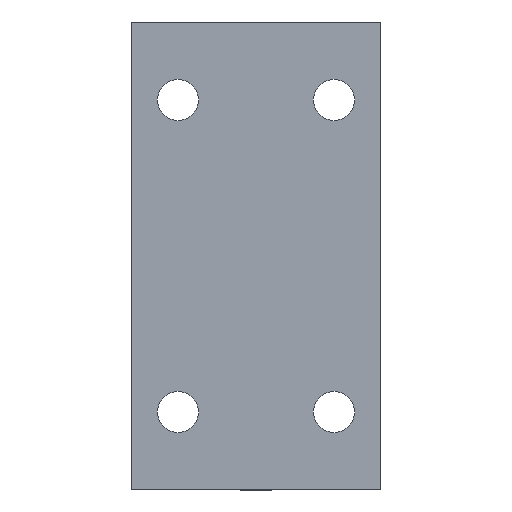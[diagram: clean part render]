
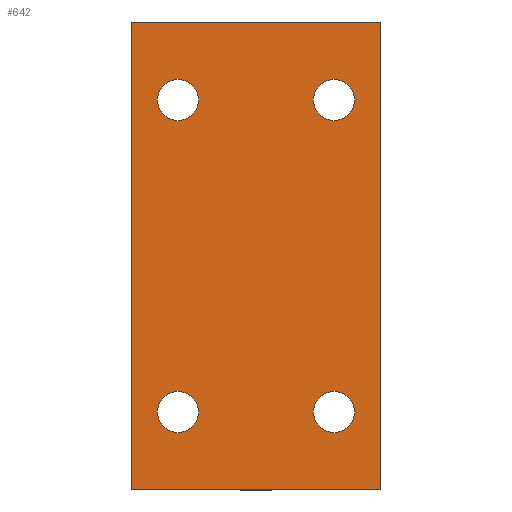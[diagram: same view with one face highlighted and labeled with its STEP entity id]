
A CAD part, front view. The second image highlights one B-rep face of the part: STEP entity #642.
In plain terms, the highlighted planar face has unit normal (0, -1, 0).
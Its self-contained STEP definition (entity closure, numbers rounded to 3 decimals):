
#10 = CIRCLE ( 'NONE', #1143, 3.3 ) ;
#19 = EDGE_CURVE ( 'NONE', #1727, #996, #1710, .T. ) ;
#31 = ORIENTED_EDGE ( 'NONE', *, *, #403, .T. ) ;
#56 = ORIENTED_EDGE ( 'NONE', *, *, #254, .F. ) ;
#60 = DIRECTION ( 'NONE',  ( 0., 0., 1. ) ) ;
#63 = DIRECTION ( 'NONE',  ( 0., 1., 0. ) ) ;
#79 = VECTOR ( 'NONE', #575, 1000. ) ;
#80 = VERTEX_POINT ( 'NONE', #1847 ) ;
#109 = CIRCLE ( 'NONE', #459, 3.3 ) ;
#121 = FACE_BOUND ( 'NONE', #1186, .T. ) ;
#124 = ORIENTED_EDGE ( 'NONE', *, *, #1740, .T. ) ;
#167 = CARTESIAN_POINT ( 'NONE',  ( -20., 0., -37.5 ) ) ;
#170 = VECTOR ( 'NONE', #393, 1000. ) ;
#172 = CARTESIAN_POINT ( 'NONE',  ( 12.5, 0., -28.3 ) ) ;
#177 = CARTESIAN_POINT ( 'NONE',  ( 12.5, 0., -21.7 ) ) ;
#211 = CARTESIAN_POINT ( 'NONE',  ( 12.5, 0., 25. ) ) ;
#254 = EDGE_CURVE ( 'NONE', #396, #439, #473, .T. ) ;
#283 = DIRECTION ( 'NONE',  ( 0., 0., 1. ) ) ;
#306 = ORIENTED_EDGE ( 'NONE', *, *, #1819, .T. ) ;
#336 = VERTEX_POINT ( 'NONE', #1571 ) ;
#366 = VERTEX_POINT ( 'NONE', #963 ) ;
#388 = DIRECTION ( 'NONE',  ( 0., 1., 0. ) ) ;
#393 = DIRECTION ( 'NONE',  ( 0., 0., -1. ) ) ;
#395 = DIRECTION ( 'NONE',  ( 0., 1., 0. ) ) ;
#396 = VERTEX_POINT ( 'NONE', #838 ) ;
#403 = EDGE_CURVE ( 'NONE', #1963, #689, #1446, .T. ) ;
#432 = FACE_BOUND ( 'NONE', #662, .T. ) ;
#439 = VERTEX_POINT ( 'NONE', #1475 ) ;
#449 = DIRECTION ( 'NONE',  ( 0., 1., 0. ) ) ;
#459 = AXIS2_PLACEMENT_3D ( 'NONE', #700, #556, #1174 ) ;
#473 = LINE ( 'NONE', #167, #499 ) ;
#499 = VECTOR ( 'NONE', #782, 1000. ) ;
#556 = DIRECTION ( 'NONE',  ( 0., 1., 0. ) ) ;
#562 = AXIS2_PLACEMENT_3D ( 'NONE', #1552, #774, #944 ) ;
#574 = DIRECTION ( 'NONE',  ( 0., 1., 0. ) ) ;
#575 = DIRECTION ( 'NONE',  ( 1., 0., 0. ) ) ;
#605 = AXIS2_PLACEMENT_3D ( 'NONE', #1033, #395, #883 ) ;
#620 = CARTESIAN_POINT ( 'NONE',  ( 12.5, 0., -25. ) ) ;
#642 = ADVANCED_FACE ( 'NONE', ( #121, #1367, #1375, #432, #1671 ), #730, .F. ) ;
#656 = ORIENTED_EDGE ( 'NONE', *, *, #922, .T. ) ;
#662 = EDGE_LOOP ( 'NONE', ( #124, #31 ) ) ;
#674 = EDGE_LOOP ( 'NONE', ( #1633, #656 ) ) ;
#684 = AXIS2_PLACEMENT_3D ( 'NONE', #620, #1828, #283 ) ;
#686 = EDGE_LOOP ( 'NONE', ( #932, #1507, #56, #955 ) ) ;
#689 = VERTEX_POINT ( 'NONE', #1395 ) ;
#700 = CARTESIAN_POINT ( 'NONE',  ( -12.5, 0., 25. ) ) ;
#728 = CARTESIAN_POINT ( 'NONE',  ( 12.5, 0., 21.7 ) ) ;
#730 = PLANE ( 'NONE',  #1821 ) ;
#774 = DIRECTION ( 'NONE',  ( 0., 1., 0. ) ) ;
#782 = DIRECTION ( 'NONE',  ( 0., 0., 1. ) ) ;
#805 = VERTEX_POINT ( 'NONE', #177 ) ;
#812 = VECTOR ( 'NONE', #1179, 1000. ) ;
#825 = DIRECTION ( 'NONE',  ( 0., 0., 1. ) ) ;
#838 = CARTESIAN_POINT ( 'NONE',  ( -20., 0., -37.5 ) ) ;
#883 = DIRECTION ( 'NONE',  ( 0., 0., 1. ) ) ;
#922 = EDGE_CURVE ( 'NONE', #996, #1727, #1852, .T. ) ;
#932 = ORIENTED_EDGE ( 'NONE', *, *, #1629, .F. ) ;
#944 = DIRECTION ( 'NONE',  ( 0., 0., 1. ) ) ;
#955 = ORIENTED_EDGE ( 'NONE', *, *, #1422, .F. ) ;
#963 = CARTESIAN_POINT ( 'NONE',  ( -12.5, 0., -21.7 ) ) ;
#996 = VERTEX_POINT ( 'NONE', #728 ) ;
#1033 = CARTESIAN_POINT ( 'NONE',  ( 12.5, 0., 25. ) ) ;
#1043 = CIRCLE ( 'NONE', #1758, 3.3 ) ;
#1143 = AXIS2_PLACEMENT_3D ( 'NONE', #1368, #449, #1839 ) ;
#1151 = CARTESIAN_POINT ( 'NONE',  ( -12.5, 0., -28.3 ) ) ;
#1163 = CARTESIAN_POINT ( 'NONE',  ( -20., 0., 37.5 ) ) ;
#1174 = DIRECTION ( 'NONE',  ( 0., 0., 1. ) ) ;
#1179 = DIRECTION ( 'NONE',  ( -1., 0., 0. ) ) ;
#1185 = LINE ( 'NONE', #1163, #79 ) ;
#1186 = EDGE_LOOP ( 'NONE', ( #1407, #1456 ) ) ;
#1213 = CARTESIAN_POINT ( 'NONE',  ( 0., 0., 0. ) ) ;
#1258 = VERTEX_POINT ( 'NONE', #1151 ) ;
#1314 = DIRECTION ( 'NONE',  ( 0., 0., 1. ) ) ;
#1316 = EDGE_CURVE ( 'NONE', #366, #1258, #1043, .T. ) ;
#1367 = FACE_BOUND ( 'NONE', #1938, .T. ) ;
#1368 = CARTESIAN_POINT ( 'NONE',  ( -12.5, 0., -25. ) ) ;
#1375 = FACE_BOUND ( 'NONE', #674, .T. ) ;
#1391 = LINE ( 'NONE', #1798, #170 ) ;
#1395 = CARTESIAN_POINT ( 'NONE',  ( -12.5, 0., 28.3 ) ) ;
#1407 = ORIENTED_EDGE ( 'NONE', *, *, #1316, .T. ) ;
#1422 = EDGE_CURVE ( 'NONE', #80, #396, #1802, .T. ) ;
#1444 = CARTESIAN_POINT ( 'NONE',  ( -12.5, 0., 21.7 ) ) ;
#1446 = CIRCLE ( 'NONE', #1992, 3.3 ) ;
#1456 = ORIENTED_EDGE ( 'NONE', *, *, #1834, .T. ) ;
#1475 = CARTESIAN_POINT ( 'NONE',  ( -20., 0., 37.5 ) ) ;
#1507 = ORIENTED_EDGE ( 'NONE', *, *, #1690, .F. ) ;
#1510 = ORIENTED_EDGE ( 'NONE', *, *, #1533, .T. ) ;
#1524 = VERTEX_POINT ( 'NONE', #172 ) ;
#1533 = EDGE_CURVE ( 'NONE', #805, #1524, #1922, .T. ) ;
#1552 = CARTESIAN_POINT ( 'NONE',  ( 12.5, 0., -25. ) ) ;
#1571 = CARTESIAN_POINT ( 'NONE',  ( 20., 0., 37.5 ) ) ;
#1599 = CARTESIAN_POINT ( 'NONE',  ( -12.5, 0., -25. ) ) ;
#1626 = AXIS2_PLACEMENT_3D ( 'NONE', #211, #63, #825 ) ;
#1629 = EDGE_CURVE ( 'NONE', #336, #80, #1391, .T. ) ;
#1633 = ORIENTED_EDGE ( 'NONE', *, *, #19, .T. ) ;
#1639 = CARTESIAN_POINT ( 'NONE',  ( 12.5, 0., 28.3 ) ) ;
#1671 = FACE_OUTER_BOUND ( 'NONE', #686, .T. ) ;
#1690 = EDGE_CURVE ( 'NONE', #439, #336, #1185, .T. ) ;
#1710 = CIRCLE ( 'NONE', #605, 3.3 ) ;
#1727 = VERTEX_POINT ( 'NONE', #1639 ) ;
#1728 = CIRCLE ( 'NONE', #684, 3.3 ) ;
#1740 = EDGE_CURVE ( 'NONE', #689, #1963, #109, .T. ) ;
#1758 = AXIS2_PLACEMENT_3D ( 'NONE', #1599, #388, #60 ) ;
#1798 = CARTESIAN_POINT ( 'NONE',  ( 20., 0., -37.5 ) ) ;
#1802 = LINE ( 'NONE', #1813, #812 ) ;
#1807 = DIRECTION ( 'NONE',  ( 0., 1., 0. ) ) ;
#1813 = CARTESIAN_POINT ( 'NONE',  ( -20., 0., -37.5 ) ) ;
#1819 = EDGE_CURVE ( 'NONE', #1524, #805, #1728, .T. ) ;
#1821 = AXIS2_PLACEMENT_3D ( 'NONE', #1213, #574, #1975 ) ;
#1828 = DIRECTION ( 'NONE',  ( 0., 1., 0. ) ) ;
#1834 = EDGE_CURVE ( 'NONE', #1258, #366, #10, .T. ) ;
#1839 = DIRECTION ( 'NONE',  ( 0., 0., 1. ) ) ;
#1847 = CARTESIAN_POINT ( 'NONE',  ( 20., 0., -37.5 ) ) ;
#1852 = CIRCLE ( 'NONE', #1626, 3.3 ) ;
#1914 = CARTESIAN_POINT ( 'NONE',  ( -12.5, 0., 25. ) ) ;
#1922 = CIRCLE ( 'NONE', #562, 3.3 ) ;
#1938 = EDGE_LOOP ( 'NONE', ( #1510, #306 ) ) ;
#1963 = VERTEX_POINT ( 'NONE', #1444 ) ;
#1975 = DIRECTION ( 'NONE',  ( 0., 0., 1. ) ) ;
#1992 = AXIS2_PLACEMENT_3D ( 'NONE', #1914, #1807, #1314 ) ;
